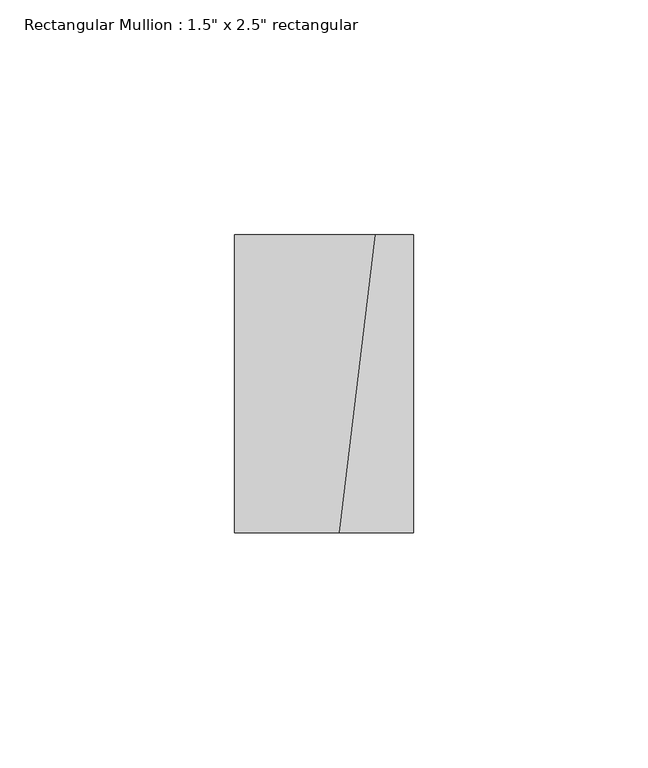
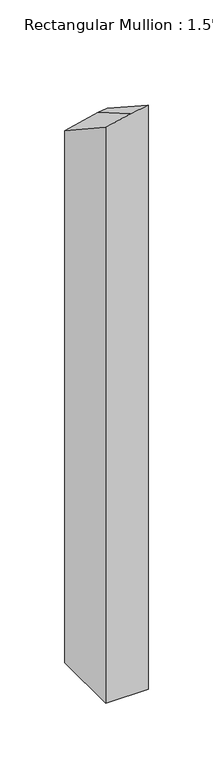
"""IFC4 building model written with IfcOpenShell, lengths in millimetres: member geometry."""

from ifc_helpers import new_model, si_unit, origin, place, context, project, spatial, faceted_brep, source, transform, mapped, element, save


def member_2e13c91d(model_context):
    return source(origin(), model_context, "Body", "Brep", [
        faceted_brep([(19.05, 31.75, -566.9112478), (19.05, -31.75, -566.9112478), (-19.05, -31.75, -566.9112478), (-19.05, 31.75, -566.9112478), (-19.05, 31.75, -64.0758312), (11.0070159, 31.75, -57.1075791), (19.05, 31.75, -55.867279), (-19.05, -31.75, -22.2215757), (19.05, -31.75, -14.6124485), (3.2850044, -31.75, -17.043552)], [[[0, 1, 2, 3]], [[4, 5, 6, 0, 3]], [[7, 4, 3, 2]], [[8, 9, 7, 2, 1]], [[6, 8, 1, 0]], [[6, 5, 9, 8]], [[5, 4, 7, 9]]]),
    ])


if __name__ == "__main__":
    model = new_model("IFC4")
    model_context = context("Model", 3, world=origin())
    ifc_project = project(units=[si_unit("LENGTHUNIT", "METRE", prefix="MILLI")], contexts=[model_context])
    site = spatial("IfcSite", under=ifc_project)
    building = spatial("IfcBuilding", under=site)
    placement = place(None, origin())
    member_shape = member_2e13c91d(model_context)
    element("IfcMember", 1, ObjectType="Rectangular Mullion : 1.5\" x 2.5\" rectangular", at=placement, inside=building, context=model_context, shape_type="MappedRepresentation", body=[
        mapped(member_shape, transform((0.0, 0.0, 0.0), x_axis=(1.0, 0.0, 0.0), y_axis=(0.0, 1.0, 0.0), z_axis=(0.0, 0.0, 1.0))),
    ])
    save(model, "model.ifc")
